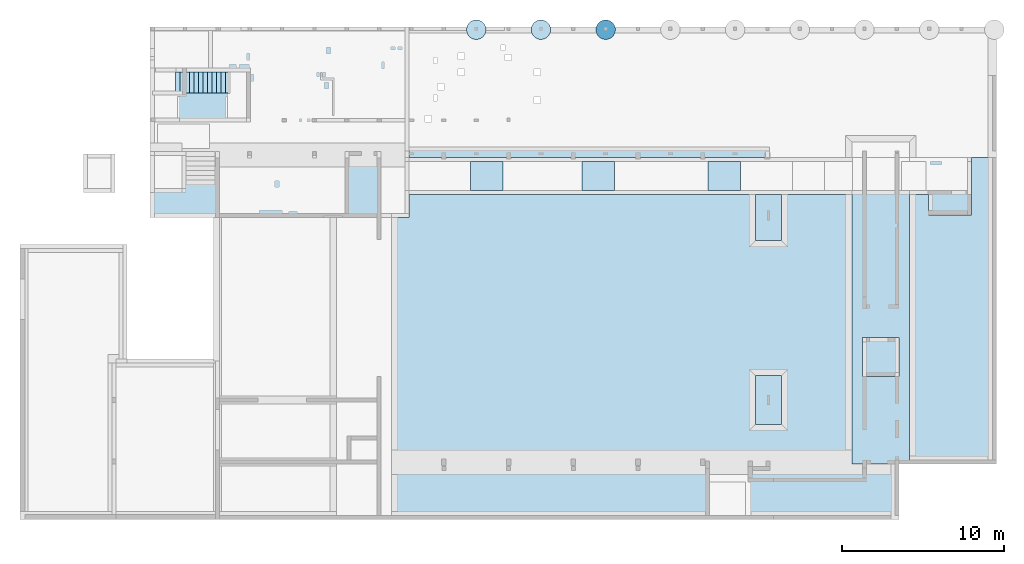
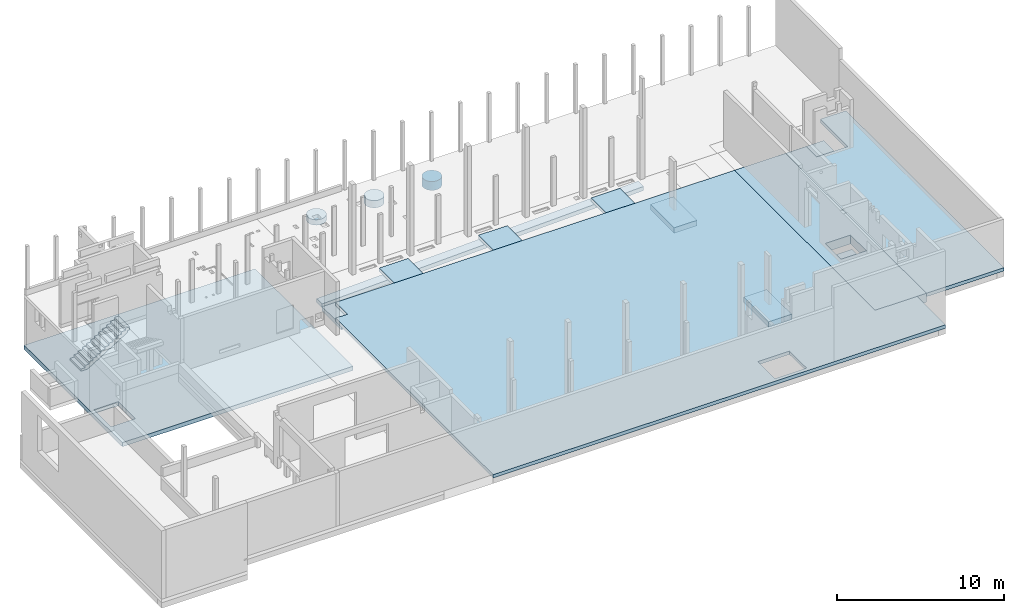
# One storey, part 4 of 12: 16 slabs, 11 openings.
"""IFC2X3 building model written with IfcOpenShell, lengths in metres."""

from ifc_helpers import new_model, entity, si_unit, converted_unit, direction, frame, frame_2d, origin, origin_2d_with_axis, place, context, subcontext, project, spatial, polyline, rectangle, circle, outline, extrude, clip, halfspace, material, layer, layer_set, layer_usage, type_object, element, save


model = new_model("IFC2X3")

# Units and contexts
model_context = context("Model", 3, precision=1e-05, world=frame((30.086303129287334, 2.687674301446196, 462.0)), true_north=direction((0.19008937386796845, 0.9817667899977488)))
body_context = subcontext(model_context, "Body", "Model", "MODEL_VIEW")
ifc_project = project(units=[si_unit("LENGTHUNIT", "METRE"), si_unit("AREAUNIT", "SQUARE_METRE"), converted_unit("PLANEANGLEUNIT", "DEGREE", entity("IfcPlaneAngleMeasure", 0.017453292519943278), si_unit("PLANEANGLEUNIT", "RADIAN"), dimensions=[0, 0, 0, 0, 0, 0, 0]), si_unit("VOLUMEUNIT", "CUBIC_METRE")], contexts=[model_context])

# Site, building, storey
site_placement = place(None, origin())
site = spatial("IfcSite", under=ifc_project, at=site_placement, Name="Default", CompositionType="ELEMENT")
building_placement = place(site_placement, origin())
building = spatial("IfcBuilding", under=site, at=building_placement, CompositionType="ELEMENT")
storey_placement = place(building_placement, frame((0.0, 0.0, -3.800000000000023)))
storey = spatial("IfcBuildingStorey", under=building, at=storey_placement, Name="FB_U01_OKFB", CompositionType="ELEMENT", Elevation=-3.800000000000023)

# Slab, openings
ifc_material_1 = material(Name="WS_CONCRETE_REINFORCED_WATERTIGHT")
ifc_layer_1 = layer(ifc_material_1, 0.24999999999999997)
ifc_layer_set_1 = layer_set([ifc_layer_1], Name="Geschossdecke:WS_SLB_CON_250_WT")
ifc_layer_usage_1 = layer_usage(ifc_layer_set_1, "AXIS3", "POSITIVE", 0.0)
slab_type_1 = type_object("IfcSlabType", Name="Geschossdecke:WS_SLB_CON_250_WT", PredefinedType="FLOOR", material=ifc_layer_set_1)
slab_1_placement = place(storey_placement, origin())
slab_1 = element("IfcSlab", 1, at=slab_1_placement, inside=storey, type_object=slab_type_1, material=ifc_layer_usage_1, Name="Geschossdecke:WS_SLB_CON_250_WT", ObjectType="Geschossdecke:WS_SLB_CON_250_WT", PredefinedType="FLOOR", context=body_context, shape_type="SweptSolid", body=[
    extrude(outline(polyline([(-12.877528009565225, -2.596249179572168), (4.02751063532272, -2.596249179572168), (4.02751063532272, -1.1762503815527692), (2.772544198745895, -1.1762503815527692), (2.772544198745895, 0.9937495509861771), (6.077473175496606, 0.9937495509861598), (6.077473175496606, 2.778750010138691), (-12.877528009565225, 2.778750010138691), (-12.877528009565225, -2.596249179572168)])), frame((95.47658791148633, -7.607120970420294, 3.6800000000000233), z_axis=(0.0, 0.0, -1.0), x_axis=(0.0, 1.0, 0.0)), (0.0, 0.0, 1.0), 0.24999999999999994),
])
opening_1_placement = place(slab_1_placement, origin())
element("IfcOpeningElement", 2, at=opening_1_placement, cuts=slab_1, Name="Geschossdecke:WS_SLB_CON_250_WT", ObjectType="Opening", context=body_context, shape_type="SweptSolid", body=[
    extrude(rectangle(XDim=1.7999999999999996, YDim=1.5000000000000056, at=origin_2d_with_axis()), frame((93.14533728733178, -2.6795710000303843, 3.4300000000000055), z_axis=(0.0, 0.0, 1.0), x_axis=(0.0, -1.0, 0.0)), (0.0, 0.0, 1.0), 0.24999999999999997),
])
opening_2_placement = place(slab_1_placement, origin())
element("IfcOpeningElement", 3, at=opening_2_placement, cuts=slab_1, Name="Geschossdecke:WS_SLB_CON_250_WT", ObjectType="Opening", context=body_context, shape_type="SweptSolid", body=[
    extrude(rectangle(XDim=2.169999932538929, YDim=1.0049664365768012, at=origin_2d_with_axis()), frame((95.38533749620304, -4.332093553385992, 3.4300000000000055), z_axis=(0.0, 0.0, 1.0), x_axis=(-1.0, 0.0, 0.0)), (0.0, 0.0, 1.0), 0.24999999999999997),
])
opening_3_placement = place(slab_1_placement, origin())
element("IfcOpeningElement", 4, at=opening_3_placement, cuts=slab_1, Name="Geschossdecke:WS_SLB_CON_250_WT", ObjectType="Opening", context=body_context, shape_type="SweptSolid", body=[
    extrude(rectangle(XDim=0.7000000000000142, YDim=0.20000003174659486, at=frame_2d((0.0, 2.706168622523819e-16), x_axis=(1.0, 0.0))), frame((94.52733732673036, -1.8795770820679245, 3.4300000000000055), z_axis=(0.0, 0.0, 1.0), x_axis=(-1.0, 0.0, 0.0)), (0.0, 0.0, 1.0), 0.24999999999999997),
])

ifc_layer_usage_2 = layer_usage(ifc_layer_set_1, "AXIS3", "POSITIVE", 0.0)
slab_2_placement = place(storey_placement, origin())
slab_2 = element("IfcSlab", 5, at=slab_2_placement, inside=storey, type_object=slab_type_1, material=ifc_layer_usage_2, Name="Geschossdecke:WS_SLB_CON_250_WT", ObjectType="Geschossdecke:WS_SLB_CON_250_WT", PredefinedType="FLOOR", context=body_context, shape_type="SweptSolid", body=[
    extrude(outline(polyline([(-14.835040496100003, -12.894626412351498), (16.51448707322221, -12.894626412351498), (16.51448707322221, -9.46462037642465), (13.614485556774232, -9.46462037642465), (13.614485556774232, 7.440418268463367), (-14.010513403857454, 7.440418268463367), (-14.010513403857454, 6.010380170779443), (-14.835040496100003, 6.010380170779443), (-14.835040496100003, -12.894626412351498)]), holes=[polyline([(7.024508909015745, -12.644626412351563), (4.819485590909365, -12.644626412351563), (4.819485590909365, -10.594627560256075), (7.024508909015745, -10.594627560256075), (7.024508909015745, -12.644626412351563)])]), frame((75.71585165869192, -11.020028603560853, 3.430000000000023)), (0.0, 0.0, 1.0), 0.24999999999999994),
])
opening_4_placement = place(slab_2_placement, origin())
element("IfcOpeningElement", 6, at=opening_4_placement, cuts=slab_2, Name="Geschossdecke:WS_SLB_CON_250_WT", ObjectType="Opening", context=body_context, shape_type="SweptSolid", body=[
    extrude(rectangle(XDim=1.7999999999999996, YDim=1.9999999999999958, at=origin_2d_with_axis()), frame((86.64533728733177, -2.6795710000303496, 3.4300000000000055), z_axis=(0.0, 0.0, 1.0), x_axis=(0.0, -1.0, 0.0)), (0.0, 0.0, 1.0), 0.24999999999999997),
])
opening_5_placement = place(slab_2_placement, origin())
element("IfcOpeningElement", 7, at=opening_5_placement, cuts=slab_2, Name="Geschossdecke:WS_SLB_CON_250_WT", ObjectType="Opening", context=body_context, shape_type="SweptSolid", body=[
    extrude(rectangle(XDim=1.7999999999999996, YDim=1.9999999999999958, at=origin_2d_with_axis()), frame((81.44533919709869, -2.679571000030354, 3.4300000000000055), z_axis=(0.0, 0.0, 1.0), x_axis=(0.0, -1.0, 0.0)), (0.0, 0.0, 1.0), 0.24999999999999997),
])
opening_6_placement = place(slab_2_placement, origin())
element("IfcOpeningElement", 8, at=opening_6_placement, cuts=slab_2, Name="Geschossdecke:WS_SLB_CON_250_WT", ObjectType="Opening", context=body_context, shape_type="SweptSolid", body=[
    extrude(rectangle(XDim=1.7999999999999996, YDim=2.0000000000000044, at=frame_2d((0.0, -8.715250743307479e-15), x_axis=(1.0, 0.0))), frame((73.64533728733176, -2.679571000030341, 3.4300000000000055), z_axis=(0.0, 0.0, 1.0), x_axis=(0.0, -1.0, 0.0)), (0.0, 0.0, 1.0), 0.24999999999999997),
])
opening_7_placement = place(slab_2_placement, origin())
element("IfcOpeningElement", 9, at=opening_7_placement, cuts=slab_2, Name="Geschossdecke:WS_SLB_CON_250_WT", ObjectType="Opening", context=body_context, shape_type="SweptSolid", body=[
    extrude(rectangle(XDim=1.7999999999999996, YDim=2.0000000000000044, at=frame_2d((5.551115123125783e-16, 0.0), x_axis=(1.0, 0.0))), frame((66.76533919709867, -2.679571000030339, 3.4300000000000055), z_axis=(0.0, 0.0, 1.0), x_axis=(0.0, -1.0, 0.0)), (0.0, 0.0, 1.0), 0.24999999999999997),
])
opening_8_placement = place(slab_2_placement, origin())
element("IfcOpeningElement", 10, at=opening_8_placement, cuts=slab_2, Name="Geschossdecke:WS_SLB_CON_250_WT", ObjectType="Opening", context=body_context, shape_type="SweptSolid", body=[
    extrude(rectangle(XDim=2.20502331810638, YDim=2.049998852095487, at=frame_2d((0.0, 2.1094237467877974e-15), x_axis=(1.0, 0.0))), frame((81.63784890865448, -22.639655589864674, 3.6800000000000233), z_axis=(0.0, 0.0, -1.0), x_axis=(-1.0, 0.0, 0.0)), (0.0, 0.0, 1.0), 0.24999999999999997),
])

# Slab
ifc_layer_2 = layer(ifc_material_1, 0.65)
ifc_layer_set_2 = layer_set([ifc_layer_2], Name="Geschossdecke:WS_SLB_CON_650_WT")
ifc_layer_usage_3 = layer_usage(ifc_layer_set_2, "AXIS3", "POSITIVE", 0.0)
slab_type_2 = type_object("IfcSlabType", Name="Geschossdecke:WS_SLB_CON_650_WT", PredefinedType="FLOOR", material=ifc_layer_set_2)
slab_3_placement = place(storey_placement, origin())
element("IfcSlab", 11, at=slab_3_placement, inside=storey, type_object=slab_type_2, material=ifc_layer_usage_3, Name="Geschossdecke:WS_SLB_CON_650_WT", ObjectType="Geschossdecke:WS_SLB_CON_650_WT", PredefinedType="FLOOR", context=body_context, shape_type="SweptSolid", body=[
    extrude(rectangle(XDim=2.3999993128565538, YDim=2.250001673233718, at=frame_2d((0.0, 8.659739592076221e-15), x_axis=(1.0, 0.0))), frame((91.10533789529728, -13.884649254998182, 2.400000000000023), z_axis=(0.0, 0.0, -1.0), x_axis=(0.0, 1.0, 0.0)), (0.0, 0.0, 1.0), 0.65),
])

# Slab, openings
ifc_layer_usage_4 = layer_usage(ifc_layer_set_2, "AXIS3", "POSITIVE", 0.0)
slab_4_placement = place(storey_placement, origin())
slab_4 = element("IfcSlab", 12, at=slab_4_placement, inside=storey, type_object=slab_type_2, material=ifc_layer_usage_4, Name="Geschossdecke:WS_SLB_CON_650_WT", ObjectType="Geschossdecke:WS_SLB_CON_650_WT", PredefinedType="FLOOR", context=body_context, shape_type="SweptSolid", body=[
    extrude(outline(polyline([(-1.600000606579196, -10.058020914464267), (1.9500009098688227, -10.058020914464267), (1.9500009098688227, -9.808020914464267), (1.950000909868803, 5.996995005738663), (1.9500009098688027, 6.847017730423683), (-0.4500006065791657, 6.847017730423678), (-0.9500006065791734, 6.847017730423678), (-1.600000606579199, 6.847017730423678), (-1.600000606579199, 6.347017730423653), (-1.600000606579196, -9.808020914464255), (-1.600000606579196, -10.058020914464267)]), holes=[polyline([(1.0500012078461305, -0.7029816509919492), (-0.7000006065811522, -0.702981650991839), (-0.7000006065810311, 1.1970176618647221), (1.0500012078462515, 1.197017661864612), (1.0500012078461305, -0.7029816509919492)])]), frame((91.28033812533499, -13.63763124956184, 3.0300000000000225), z_axis=(0.0, 0.0, 1.0), x_axis=(-1.0, 0.0, 0.0)), (0.0, 0.0, 1.0), 0.65),
])
opening_9_placement = place(slab_4_placement, origin())
element("IfcOpeningElement", 13, at=opening_9_placement, cuts=slab_4, Name="Geschossdecke:WS_SLB_CON_650_WT", ObjectType="Recess", context=body_context, shape_type="SweptSolid", body=[
    extrude(rectangle(XDim=1.7999999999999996, YDim=1.5000000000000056, at=origin_2d_with_axis()), frame((93.14533728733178, -2.6795710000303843, 3.4300000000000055), z_axis=(0.0, 0.0, 1.0), x_axis=(0.0, -1.0, 0.0)), (0.0, 0.0, 1.0), 0.24999999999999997),
])
opening_10_placement = place(slab_4_placement, origin())
element("IfcOpeningElement", 14, at=opening_10_placement, cuts=slab_4, Name="Geschossdecke:WS_SLB_CON_650_WT", ObjectType="Opening", context=body_context, shape_type="SweptSolid", body=[
    extrude(rectangle(XDim=1.7500018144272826, YDim=1.899999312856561, at=origin_2d_with_axis()), frame((91.10533782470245, -13.884649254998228, 3.6800000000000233), z_axis=(0.0, 0.0, -1.0), x_axis=(1.0, 0.0, 0.0)), (0.0, 0.0, 1.0), 16.905038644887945),
])

# Slab
ifc_material_2 = material(Name="WS_CONCRETE")
ifc_layer_3 = layer(ifc_material_2, 0.4)
ifc_layer_set_3 = layer_set([ifc_layer_3], Name="Bodenplatte:WS_FDN_SLB_400_Magerbeton")
ifc_layer_usage_5 = layer_usage(ifc_layer_set_3, "AXIS3", "POSITIVE", 0.0)
slab_type_3 = type_object("IfcSlabType", Name="Bodenplatte:WS_FDN_SLB_400_Magerbeton", PredefinedType="BASESLAB", material=ifc_layer_set_3)
slab_5_placement = place(storey_placement, origin())
element("IfcSlab", 15, at=slab_5_placement, inside=storey, type_object=slab_type_3, material=ifc_layer_usage_5, Name="Bodenplatte:WS_FDN_SLB_400_Magerbeton", ObjectType="Bodenplatte:WS_FDN_SLB_400_Magerbeton", PredefinedType="BASESLAB", context=body_context, shape_type="SweptSolid", body=[
    extrude(circle(Radius=0.6000000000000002, at=frame_2d((-3.908670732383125e-30, 1.0828671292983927e-15), x_axis=(1.0, 0.0))), frame((66.10784278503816, 6.355351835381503, 2.580000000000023), z_axis=(0.0, 0.0, -1.0), x_axis=(-1.0, 0.0, 0.0)), (0.0, 0.0, 1.0), 0.4),
])

# Slab, opening
ifc_layer_4 = layer(ifc_material_1, 0.29999999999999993)
ifc_layer_set_4 = layer_set([ifc_layer_4], Name="Geschossdecke:WS_SLB_CON_300_WT")
ifc_layer_usage_6 = layer_usage(ifc_layer_set_4, "AXIS3", "POSITIVE", 0.0)
slab_type_4 = type_object("IfcSlabType", Name="Geschossdecke:WS_SLB_CON_300_WT", PredefinedType="FLOOR", material=ifc_layer_set_4)
slab_6_placement = place(storey_placement, frame((45.95533900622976, -5.259648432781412, -0.3699999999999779)))
slab_6 = element("IfcSlab", 16, at=slab_6_placement, inside=storey, type_object=slab_type_4, material=ifc_layer_usage_6, Name="Geschossdecke:WS_SLB_CON_300_WT", ObjectType="Geschossdecke:WS_SLB_CON_300_WT", PredefinedType="FLOOR", context=body_context, shape_type="SweptSolid", body=[
    extrude(rectangle(XDim=11.774999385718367, YDim=15.999999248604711, at=frame_2d((0.0, 0.0), x_axis=(0.0, -1.0))), frame((7.999999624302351, 5.887499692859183, 0.30000000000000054), z_axis=(0.0, 0.0, -1.0), x_axis=(-1.0, 0.0, 0.0)), (0.0, 0.0, 1.0), 0.30000000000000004),
])
opening_11_placement = place(slab_6_placement, origin())
element("IfcOpeningElement", 17, at=opening_11_placement, cuts=slab_6, Name="Geschossdecke:WS_SLB_CON_300_WT", ObjectType="Opening", context=body_context, shape_type="SweptSolid", body=[
    extrude(rectangle(XDim=2.049960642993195, YDim=1.6999996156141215, at=frame_2d((0.0, 4.3298697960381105e-15), x_axis=(1.0, 0.0))), frame((1.0999998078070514, 2.815020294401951, 0.30000000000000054), z_axis=(0.0, 0.0, -1.0), x_axis=(0.0, -1.0, 0.0)), (0.0, 0.0, 1.0), 0.29999999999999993),
])

# Slabs
ifc_layer_usage_7 = layer_usage(ifc_layer_set_4, "AXIS3", "POSITIVE", 0.0)
slab_7_placement = place(storey_placement, origin())
element("IfcSlab", 18, at=slab_7_placement, inside=storey, type_object=slab_type_4, material=ifc_layer_usage_7, Name="Geschossdecke:WS_SLB_CON_300_WT", ObjectType="Geschossdecke:WS_SLB_CON_300_WT", PredefinedType="FLOOR", context=body_context, shape_type="SweptSolid", body=[
    clip(clip(extrude(rectangle(XDim=22.289697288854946, YDim=0.65, at=frame_2d((0.0, 0.0), x_axis=(0.0, 1.0))), frame((73.09283826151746, -1.2046477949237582, 2.6346540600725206), z_axis=(0.036308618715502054, 0.0, -0.9993406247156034), x_axis=(0.0, 1.0, 0.0)), (0.0, -0.036308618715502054, 0.9993406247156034), 0.3003960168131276), halfspace(frame((61.955338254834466, -1.2046477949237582, 1.9298020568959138), z_axis=(0.036308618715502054, 0.0, -0.9993406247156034), x_axis=(0.9993406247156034, 0.0, 0.036308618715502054)), False)), halfspace(frame((61.955338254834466, -1.2046477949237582, 2.2300000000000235), z_axis=(-0.036308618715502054, 0.0, 0.9993406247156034), x_axis=(-0.9993406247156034, 0.0, -0.036308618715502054)), False)),
])
ifc_layer_5 = layer(ifc_material_2, 0.525)
ifc_layer_set_5 = layer_set([ifc_layer_5], Name="Bodenplatte:WS_FDN_SLB_525_Magerbeton")
ifc_layer_usage_8 = layer_usage(ifc_layer_set_5, "AXIS3", "POSITIVE", 0.0)
slab_type_5 = type_object("IfcSlabType", Name="Bodenplatte:WS_FDN_SLB_525_Magerbeton", PredefinedType="BASESLAB", material=ifc_layer_set_5)
slab_8_placement = place(storey_placement, origin())
element("IfcSlab", 19, at=slab_8_placement, inside=storey, type_object=slab_type_5, material=ifc_layer_usage_8, Name="Bodenplatte:WS_FDN_SLB_525_Magerbeton", ObjectType="Bodenplatte:WS_FDN_SLB_525_Magerbeton", PredefinedType="BASESLAB", context=body_context, shape_type="SweptSolid", body=[
    extrude(circle(Radius=0.6000000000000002, at=frame_2d((-3.908670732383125e-30, 1.0828671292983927e-15), x_axis=(1.0, 0.0))), frame((70.10784114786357, 6.355351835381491, 2.580000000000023), z_axis=(0.0, 0.0, -1.0), x_axis=(-1.0, 0.0, 0.0)), (0.0, 0.0, 1.0), 0.525),
])
ifc_layer_6 = layer(ifc_material_2, 0.65)
ifc_layer_set_6 = layer_set([ifc_layer_6], Name="Bodenplatte:WS_FDN_SLB_650_Magerbeton")
ifc_layer_usage_9 = layer_usage(ifc_layer_set_6, "AXIS3", "POSITIVE", 0.0)
slab_type_6 = type_object("IfcSlabType", Name="Bodenplatte:WS_FDN_SLB_650_Magerbeton", PredefinedType="BASESLAB", material=ifc_layer_set_6)
slab_9_placement = place(storey_placement, origin())
element("IfcSlab", 20, at=slab_9_placement, inside=storey, type_object=slab_type_6, material=ifc_layer_usage_9, Name="Bodenplatte:WS_FDN_SLB_650_Magerbeton", ObjectType="Bodenplatte:WS_FDN_SLB_650_Magerbeton", PredefinedType="BASESLAB", context=body_context, shape_type="SweptSolid", body=[
    extrude(circle(Radius=0.6000000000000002, at=frame_2d((-3.908670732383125e-30, 1.0828671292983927e-15), x_axis=(1.0, 0.0))), frame((74.1078411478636, 6.3553518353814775, 2.580000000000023), z_axis=(0.0, 0.0, -1.0), x_axis=(-1.0, 0.0, 0.0)), (0.0, 0.0, 1.0), 0.65),
])
slab_type_7 = type_object("IfcSlabType", Name="WS_FDN_PAD:FDN_PAD_1600x3000x650_WT", PredefinedType="BASESLAB", material=ifc_material_1)
slab_10_placement = place(storey_placement, origin())
element("IfcSlab", 21, at=slab_10_placement, inside=storey, type_object=slab_type_7, Name="WS_FDN_PAD:FDN_PAD_1600x3000x650_WT", ObjectType="WS_FDN_PAD:FDN_PAD_1600x3000x650_WT", PredefinedType="BASESLAB", context=body_context, shape_type="SweptSolid", body=[
    extrude(rectangle(XDim=2.8549606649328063, YDim=1.6, at=frame_2d((2.220446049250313e-16, -8.659739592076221e-15), x_axis=(1.0, 0.0))), frame((84.16533735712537, -5.257090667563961, 3.0300000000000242), z_axis=(0.0, 0.0, 1.0), x_axis=(0.0, 1.0, 0.0)), (0.0, 0.0, 1.0), 0.3999999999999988),
])
slab_11_placement = place(storey_placement, origin())
element("IfcSlab", 22, at=slab_11_placement, inside=storey, type_object=slab_type_7, Name="WS_FDN_PAD:FDN_PAD_1600x3000x650_WT", ObjectType="WS_FDN_PAD:FDN_PAD_1600x3000x650_WT", PredefinedType="BASESLAB", context=body_context, shape_type="SweptSolid", body=[
    extrude(rectangle(XDim=2.999999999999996, YDim=1.6, at=frame_2d((0.0, -8.659739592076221e-15), x_axis=(1.0, 0.0))), frame((84.16533735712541, -16.53464801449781, 3.030000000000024), z_axis=(0.0, 0.0, 1.0), x_axis=(0.0, -1.0, 0.0)), (0.0, 0.0, 1.0), 0.3999999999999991),
])
ifc_layer_7 = layer(ifc_material_1, 0.29999999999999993)
ifc_layer_set_7 = layer_set([ifc_layer_7], Name="Bodenplatte:WS_FDN_SLB_300_WT")
ifc_layer_usage_10 = layer_usage(ifc_layer_set_7, "AXIS3", "POSITIVE", 0.0)
slab_type_8 = type_object("IfcSlabType", Name="Bodenplatte:WS_FDN_SLB_300_WT", PredefinedType="BASESLAB", material=ifc_layer_set_7)
slab_12_placement = place(storey_placement, origin())
element("IfcSlab", 23, at=slab_12_placement, inside=storey, type_object=slab_type_8, material=ifc_layer_usage_10, Name="Bodenplatte:WS_FDN_SLB_300_WT", ObjectType="Bodenplatte:WS_FDN_SLB_300_WT", PredefinedType="BASESLAB", context=body_context, shape_type="SweptSolid", body=[
    extrude(outline(polyline([(-0.34833203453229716, -22.28666616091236), (1.9516305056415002, -22.28666616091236), (1.9516305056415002, 12.478333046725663), (-1.6032984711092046, 12.478333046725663), (-1.6032984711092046, 9.808333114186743), (-0.34833203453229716, 9.808333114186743), (-0.34833203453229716, -22.28666616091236)])), frame((84.24200441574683, -3.4812783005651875, 2.0300000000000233), z_axis=(0.0, 0.0, -1.0), x_axis=(0.0, 1.0, 0.0)), (0.0, 0.0, 1.0), 0.30000000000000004),
])
ifc_material_3 = material(Name="WS_CONCRETE_REINFORCED_PRECAST")
slab_type_9 = type_object("IfcSlabType", Name="Treppe1:Treppe1", PredefinedType="FLOOR", material=ifc_material_3)
slab_13_placement = place(storey_placement, origin())
element("IfcSlab", 24, at=slab_13_placement, inside=storey, type_object=slab_type_9, Name="Treppe1:Treppe1", ObjectType="Treppe1:Treppe1", PredefinedType="FLOOR", context=body_context, shape_type="SweptSolid", body=[
    extrude(outline(polyline([(-0.953436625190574, -1.464469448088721), (-0.7788366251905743, -1.464469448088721), (-0.7788366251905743, -1.1844694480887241), (-0.6042366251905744, -1.1844694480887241), (-0.6042366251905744, -0.9044694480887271), (-0.42963662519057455, -0.9044694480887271), (-0.42963662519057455, -0.6244694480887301), (-0.25503662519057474, -0.6244694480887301), (-0.25503662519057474, -0.3444694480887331), (-0.0804366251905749, -0.3444694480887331), (-0.0804366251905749, -0.06446944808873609), (0.09416337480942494, -0.06446944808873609), (0.09416337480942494, 0.2155305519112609), (0.26876337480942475, 0.2155305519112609), (0.26876337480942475, 0.4955305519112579), (0.4433633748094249, 0.4955305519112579), (0.4433633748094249, 0.7755305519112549), (0.617963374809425, 0.7755305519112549), (0.617963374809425, 1.055530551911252), (0.7925633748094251, 1.055530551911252), (0.7925633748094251, 1.3355305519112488), (0.9671633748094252, 1.3355305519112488), (0.9671633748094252, 1.615530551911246), (0.737163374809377, 1.615530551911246), (0.7371633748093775, 1.475530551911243), (0.5970255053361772, 1.475530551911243), (-1.1180366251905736, -1.274855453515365), (-1.118036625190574, -1.744469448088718), (-0.953436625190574, -1.744469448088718), (-0.953436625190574, -1.464469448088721)])), frame((49.274806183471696, 2.4378914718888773, 1.057836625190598), z_axis=(0.0, 1.0, 0.0), x_axis=(0.0, 0.0, 1.0)), (0.0, 0.0, 1.0), 1.292499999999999),
])
ifc_material_4 = material(Name="WS_CONCRETE_PRECAST")
ifc_layer_8 = layer(ifc_material_4, 0.24999999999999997)
ifc_layer_set_8 = layer_set([ifc_layer_8], Name="Geschossdecke:WS_SLB_CON_250_FT")
ifc_layer_usage_11 = layer_usage(ifc_layer_set_8, "AXIS3", "POSITIVE", 0.0)
slab_type_10 = type_object("IfcSlabType", Name="Geschossdecke:WS_SLB_CON_250_FT", PredefinedType="FLOOR", material=ifc_layer_set_8)
slab_14_placement = place(storey_placement, origin())
element("IfcSlab", 25, at=slab_14_placement, inside=storey, type_object=slab_type_10, material=ifc_layer_usage_11, Name="Geschossdecke:WS_SLB_CON_250_FT", ObjectType="Geschossdecke:WS_SLB_CON_250_FT", PredefinedType="FLOOR", context=body_context, shape_type="SweptSolid", body=[
    extrude(rectangle(XDim=1.8000000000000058, YDim=2.0000000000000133, at=frame_2d((1.1102230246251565e-16, 8.715250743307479e-15), x_axis=(1.0, 0.0))), frame((66.76533919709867, -2.6795710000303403, 3.6800000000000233), z_axis=(0.0, 0.0, -1.0), x_axis=(0.0, 1.0, 0.0)), (0.0, 0.0, 1.0), 0.24999999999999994),
])
ifc_layer_usage_12 = layer_usage(ifc_layer_set_8, "AXIS3", "POSITIVE", 0.0)
slab_15_placement = place(storey_placement, origin())
element("IfcSlab", 26, at=slab_15_placement, inside=storey, type_object=slab_type_10, material=ifc_layer_usage_12, Name="Geschossdecke:WS_SLB_CON_250_FT", ObjectType="Geschossdecke:WS_SLB_CON_250_FT", PredefinedType="FLOOR", context=body_context, shape_type="SweptSolid", body=[
    extrude(rectangle(XDim=1.8000000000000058, YDim=2.0000000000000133, at=frame_2d((1.1102230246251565e-16, 0.0), x_axis=(1.0, 0.0))), frame((73.64533728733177, -2.6795710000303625, 3.6800000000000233), z_axis=(0.0, 0.0, -1.0), x_axis=(0.0, 1.0, 0.0)), (0.0, 0.0, 1.0), 0.24999999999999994),
])
ifc_layer_usage_13 = layer_usage(ifc_layer_set_8, "AXIS3", "POSITIVE", 0.0)
slab_16_placement = place(storey_placement, origin())
element("IfcSlab", 27, at=slab_16_placement, inside=storey, type_object=slab_type_10, material=ifc_layer_usage_13, Name="Geschossdecke:WS_SLB_CON_250_FT", ObjectType="Geschossdecke:WS_SLB_CON_250_FT", PredefinedType="FLOOR", context=body_context, shape_type="SweptSolid", body=[
    extrude(rectangle(XDim=1.8000000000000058, YDim=2.0000000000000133, at=frame_2d((1.1102230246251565e-16, 8.715250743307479e-15), x_axis=(1.0, 0.0))), frame((81.44533919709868, -2.6795710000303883, 3.6800000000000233), z_axis=(0.0, 0.0, -1.0), x_axis=(0.0, 1.0, 0.0)), (0.0, 0.0, 1.0), 0.24999999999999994),
])

save(model, "model.ifc")
